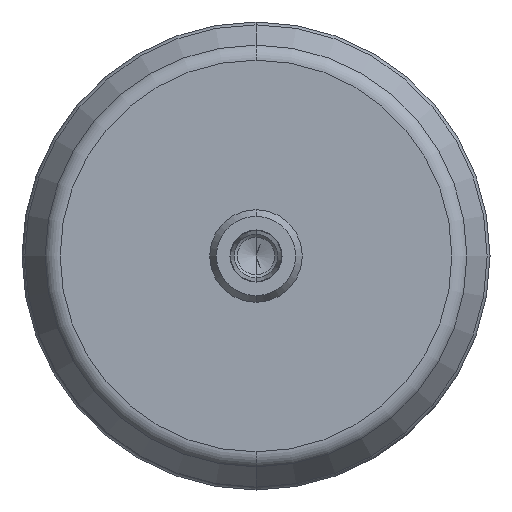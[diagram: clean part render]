
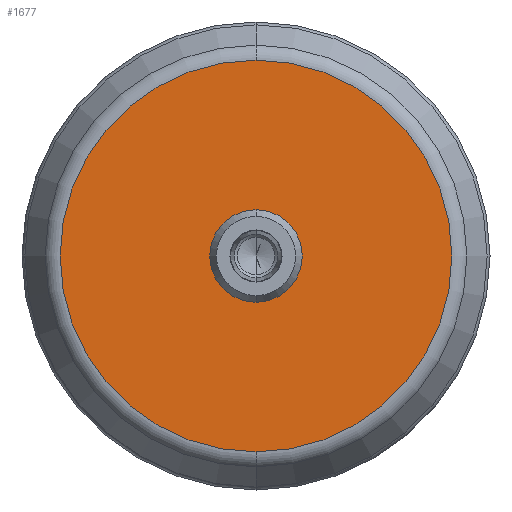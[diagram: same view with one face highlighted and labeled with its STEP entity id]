
A CAD part, front view. The second image highlights one B-rep face of the part: STEP entity #1677.
In plain terms, the highlighted planar face has unit normal (0, -1, 0).
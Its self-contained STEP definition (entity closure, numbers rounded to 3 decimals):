
#14 = AXIS2_PLACEMENT_3D ( 'NONE', #648, #1111, #795 ) ;
#33 = CARTESIAN_POINT ( 'NONE',  ( 0., 0., 0. ) ) ;
#74 = EDGE_LOOP ( 'NONE', ( #1489, #1494 ) ) ;
#91 = DIRECTION ( 'NONE',  ( 0., 0., 1. ) ) ;
#183 = CIRCLE ( 'NONE', #14, 7.75 ) ;
#205 = PLANE ( 'NONE',  #1106 ) ;
#208 = DIRECTION ( 'NONE',  ( 0., 1., 0. ) ) ;
#431 = CIRCLE ( 'NONE', #1692, 33.892 ) ;
#449 = DIRECTION ( 'NONE',  ( 0., 1., 0. ) ) ;
#470 = VERTEX_POINT ( 'NONE', #953 ) ;
#596 = ORIENTED_EDGE ( 'NONE', *, *, #1112, .F. ) ;
#648 = CARTESIAN_POINT ( 'NONE',  ( 0., 0., 0. ) ) ;
#705 = CARTESIAN_POINT ( 'NONE',  ( 0., 0., 0. ) ) ;
#795 = DIRECTION ( 'NONE',  ( 0., 0., 1. ) ) ;
#875 = CARTESIAN_POINT ( 'NONE',  ( 0., 0., -7.75 ) ) ;
#886 = FACE_OUTER_BOUND ( 'NONE', #1001, .T. ) ;
#953 = CARTESIAN_POINT ( 'NONE',  ( 0., 0., -33.892 ) ) ;
#956 = CARTESIAN_POINT ( 'NONE',  ( 0., 0., 7.75 ) ) ;
#1001 = EDGE_LOOP ( 'NONE', ( #596, #1767 ) ) ;
#1033 = DIRECTION ( 'NONE',  ( 0., 0., 1. ) ) ;
#1056 = DIRECTION ( 'NONE',  ( 0., -1., 0. ) ) ;
#1089 = CIRCLE ( 'NONE', #1357, 7.75 ) ;
#1099 = CARTESIAN_POINT ( 'NONE',  ( 0., 0., 0. ) ) ;
#1106 = AXIS2_PLACEMENT_3D ( 'NONE', #1709, #1056, #1684 ) ;
#1111 = DIRECTION ( 'NONE',  ( 0., 1., 0. ) ) ;
#1112 = EDGE_CURVE ( 'NONE', #1399, #470, #431, .T. ) ;
#1128 = AXIS2_PLACEMENT_3D ( 'NONE', #33, #208, #1179 ) ;
#1156 = EDGE_CURVE ( 'NONE', #470, #1399, #1722, .T. ) ;
#1179 = DIRECTION ( 'NONE',  ( 0., 0., 1. ) ) ;
#1357 = AXIS2_PLACEMENT_3D ( 'NONE', #1099, #449, #91 ) ;
#1395 = EDGE_CURVE ( 'NONE', #1436, #1665, #183, .T. ) ;
#1399 = VERTEX_POINT ( 'NONE', #1608 ) ;
#1436 = VERTEX_POINT ( 'NONE', #956 ) ;
#1489 = ORIENTED_EDGE ( 'NONE', *, *, #1395, .T. ) ;
#1494 = ORIENTED_EDGE ( 'NONE', *, *, #1918, .T. ) ;
#1608 = CARTESIAN_POINT ( 'NONE',  ( 0., 0., 33.892 ) ) ;
#1665 = VERTEX_POINT ( 'NONE', #875 ) ;
#1677 = ADVANCED_FACE ( 'NONE', ( #1716, #886 ), #205, .T. ) ;
#1684 = DIRECTION ( 'NONE',  ( 0., 0., -1. ) ) ;
#1692 = AXIS2_PLACEMENT_3D ( 'NONE', #705, #2002, #1033 ) ;
#1709 = CARTESIAN_POINT ( 'NONE',  ( 0., 0., 0. ) ) ;
#1716 = FACE_BOUND ( 'NONE', #74, .T. ) ;
#1722 = CIRCLE ( 'NONE', #1128, 33.892 ) ;
#1767 = ORIENTED_EDGE ( 'NONE', *, *, #1156, .F. ) ;
#1918 = EDGE_CURVE ( 'NONE', #1665, #1436, #1089, .T. ) ;
#2002 = DIRECTION ( 'NONE',  ( 0., 1., 0. ) ) ;
